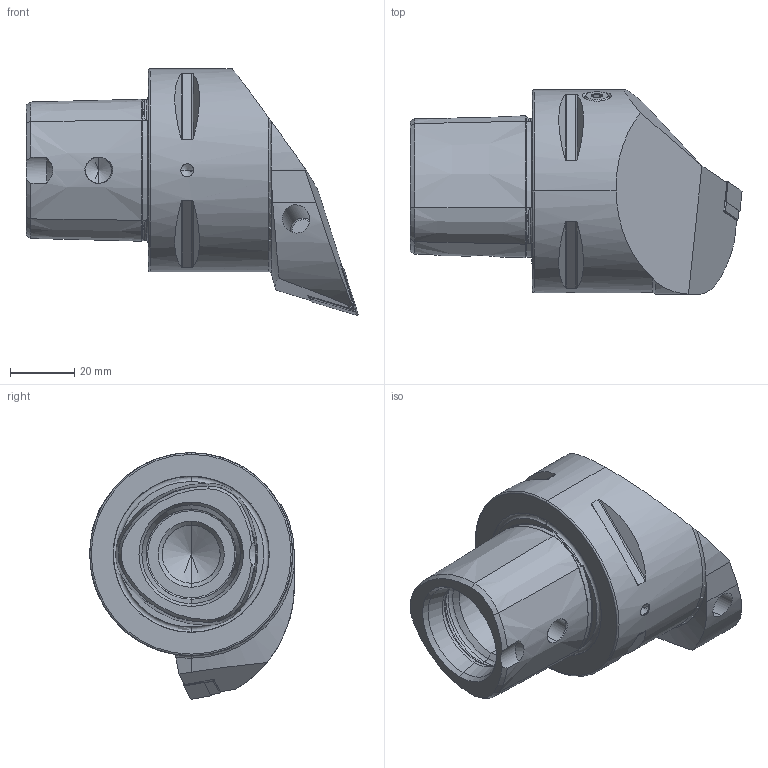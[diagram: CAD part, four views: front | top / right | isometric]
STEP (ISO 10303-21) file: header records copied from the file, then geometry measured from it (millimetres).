
FILE_DESCRIPTION (( 'STEP AP214' ), '1' );
FILE_NAME ('PS6.PDF.RHA.065-HP.STEP', '2020-09-11T12:26:23', ( '' ), ( '' ), 'SwSTEP 2.0', 'SolidWorks 2017', '' );
FILE_SCHEMA (( 'AUTOMOTIVE_DESIGN' ));
Length unit declared in the file: millimetre
Products named in the file (13): PS6-PDF.RHA.065-HP_A; CHP-ER1.015.006_A; CHP-ER1.008.014_A; WCD-ER1.101.000; DNMG150604; PS6.PDF.RHA.065-HP; WDF-ER2.101.003_A; WDF-ER3.101.000_A; DIN 7991 - M5x15; DIN 3771 - 13x1; WCD-ER4.101.017_A; CHP-ER1.015.006; ISO 8752 2x8
Assembly tree (12 placements, depth 3):
  PS6.PDF.RHA.065-HP
    PS6-PDF.RHA.065-HP_A
    DNMG150604
    WDF-ER3.101.000_A
    WCD-ER1.101.000
    WCD-ER4.101.017_A
    WDF-ER2.101.003_A
    CHP-ER1.008.014_A
    ISO 8752 2x8
    CHP-ER1.015.006
      CHP-ER1.015.006_A
      DIN 3771 - 13x1
      DIN 7991 - M5x15
Bounding box: 103.01 x 63.5 x 76.51 mm (x, y, z)
Volume: 160565.8 mm3; surface area: 33586.7 mm2
Topology: 11 solids, 11 shells, 441 faces, 1052 edges, 623 vertices
Faces by surface type: cone 132, plane 130, cylinder 113, torus 54, bspline 12
Entity records: 14473 total; most frequent: CARTESIAN_POINT 3896, DIRECTION 2116, ORIENTED_EDGE 2056, EDGE_CURVE 1028, AXIS2_PLACEMENT_3D 839, VERTEX_POINT 623, EDGE_LOOP 475, FACE_OUTER_BOUND 441
